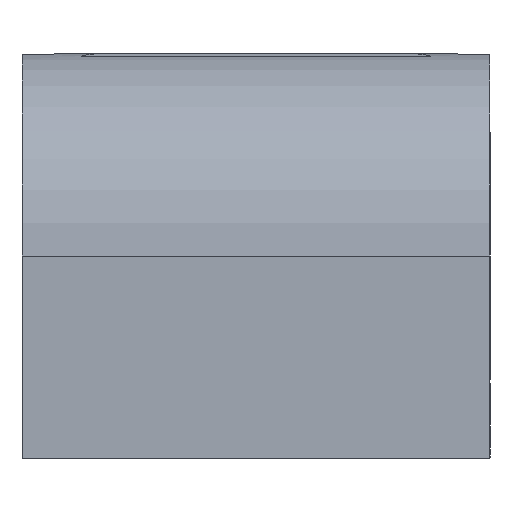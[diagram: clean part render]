
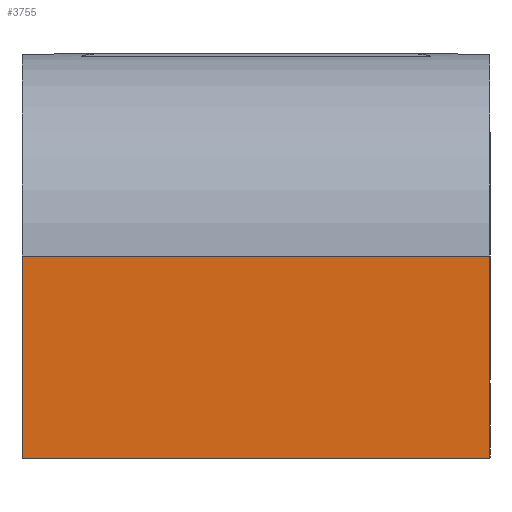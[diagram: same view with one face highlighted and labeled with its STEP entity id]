
A CAD part, left-side view. The second image highlights one B-rep face of the part: STEP entity #3755.
In plain terms, the highlighted planar face has unit normal (-1, 0, 0).
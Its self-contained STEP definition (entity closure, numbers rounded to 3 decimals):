
#43 = PLANE('',#44);
#44 = AXIS2_PLACEMENT_3D('',#45,#46,#47);
#45 = CARTESIAN_POINT('',(-6.4,-7.4,-6.4));
#46 = DIRECTION('',(0.,0.,1.));
#47 = DIRECTION('',(1.,0.,-0.));
#72 = PLANE('',#73);
#73 = AXIS2_PLACEMENT_3D('',#74,#75,#76);
#74 = CARTESIAN_POINT('',(0.,7.4,0.));
#75 = DIRECTION('',(0.,-1.,0.));
#76 = DIRECTION('',(1.,0.,0.));
#165 = VERTEX_POINT('',#166);
#166 = CARTESIAN_POINT('',(-6.4,7.4,-6.4));
#268 = VERTEX_POINT('',#269);
#269 = CARTESIAN_POINT('',(-6.4,7.4,0.));
#284 = CYLINDRICAL_SURFACE('',#285,6.4);
#285 = AXIS2_PLACEMENT_3D('',#286,#287,#288);
#286 = CARTESIAN_POINT('',(0.,7.4,0.));
#287 = DIRECTION('',(0.,-1.,0.));
#288 = DIRECTION('',(1.,0.,0.));
#296 = EDGE_CURVE('',#165,#268,#297,.T.);
#297 = SURFACE_CURVE('',#298,(#302,#309),.PCURVE_S1.);
#298 = LINE('',#299,#300);
#299 = CARTESIAN_POINT('',(-6.4,7.4,-6.4));
#300 = VECTOR('',#301,1.);
#301 = DIRECTION('',(0.,0.,1.));
#302 = PCURVE('',#72,#303);
#303 = DEFINITIONAL_REPRESENTATION('',(#304),#308);
#304 = LINE('',#305,#306);
#305 = CARTESIAN_POINT('',(-6.4,-6.4));
#306 = VECTOR('',#307,1.);
#307 = DIRECTION('',(0.,1.));
#308 = ( GEOMETRIC_REPRESENTATION_CONTEXT(2) 
PARAMETRIC_REPRESENTATION_CONTEXT() REPRESENTATION_CONTEXT('2D SPACE',''
  ) );
#309 = PCURVE('',#310,#315);
#310 = PLANE('',#311);
#311 = AXIS2_PLACEMENT_3D('',#312,#313,#314);
#312 = CARTESIAN_POINT('',(-6.4,-7.4,-6.4));
#313 = DIRECTION('',(1.,0.,-0.));
#314 = DIRECTION('',(0.,0.,1.));
#315 = DEFINITIONAL_REPRESENTATION('',(#316),#320);
#316 = LINE('',#317,#318);
#317 = CARTESIAN_POINT('',(0.,-14.8));
#318 = VECTOR('',#319,1.);
#319 = DIRECTION('',(1.,0.));
#320 = ( GEOMETRIC_REPRESENTATION_CONTEXT(2) 
PARAMETRIC_REPRESENTATION_CONTEXT() REPRESENTATION_CONTEXT('2D SPACE',''
  ) );
#615 = PLANE('',#616);
#616 = AXIS2_PLACEMENT_3D('',#617,#618,#619);
#617 = CARTESIAN_POINT('',(0.,-7.4,0.));
#618 = DIRECTION('',(0.,-1.,0.));
#619 = DIRECTION('',(1.,0.,0.));
#630 = VERTEX_POINT('',#631);
#631 = CARTESIAN_POINT('',(-6.4,-7.4,0.));
#659 = EDGE_CURVE('',#660,#630,#662,.T.);
#660 = VERTEX_POINT('',#661);
#661 = CARTESIAN_POINT('',(-6.4,-7.4,-6.4));
#662 = SURFACE_CURVE('',#663,(#667,#674),.PCURVE_S1.);
#663 = LINE('',#664,#665);
#664 = CARTESIAN_POINT('',(-6.4,-7.4,-6.4));
#665 = VECTOR('',#666,1.);
#666 = DIRECTION('',(0.,0.,1.));
#667 = PCURVE('',#615,#668);
#668 = DEFINITIONAL_REPRESENTATION('',(#669),#673);
#669 = LINE('',#670,#671);
#670 = CARTESIAN_POINT('',(-6.4,-6.4));
#671 = VECTOR('',#672,1.);
#672 = DIRECTION('',(0.,1.));
#673 = ( GEOMETRIC_REPRESENTATION_CONTEXT(2) 
PARAMETRIC_REPRESENTATION_CONTEXT() REPRESENTATION_CONTEXT('2D SPACE',''
  ) );
#674 = PCURVE('',#310,#675);
#675 = DEFINITIONAL_REPRESENTATION('',(#676),#680);
#676 = LINE('',#677,#678);
#677 = CARTESIAN_POINT('',(0.,0.));
#678 = VECTOR('',#679,1.);
#679 = DIRECTION('',(1.,0.));
#680 = ( GEOMETRIC_REPRESENTATION_CONTEXT(2) 
PARAMETRIC_REPRESENTATION_CONTEXT() REPRESENTATION_CONTEXT('2D SPACE',''
  ) );
#3731 = EDGE_CURVE('',#630,#268,#3732,.T.);
#3732 = SURFACE_CURVE('',#3733,(#3737,#3743),.PCURVE_S1.);
#3733 = LINE('',#3734,#3735);
#3734 = CARTESIAN_POINT('',(-6.4,-7.4,0.));
#3735 = VECTOR('',#3736,1.);
#3736 = DIRECTION('',(-0.,1.,0.));
#3737 = PCURVE('',#284,#3738);
#3738 = DEFINITIONAL_REPRESENTATION('',(#3739),#3742);
#3739 = B_SPLINE_CURVE_WITH_KNOTS('',1,(#3740,#3741),.UNSPECIFIED.,.F.,
  .F.,(2,2),(0.,14.8),.PIECEWISE_BEZIER_KNOTS.);
#3740 = CARTESIAN_POINT('',(9.425,14.8));
#3741 = CARTESIAN_POINT('',(9.425,0.));
#3742 = ( GEOMETRIC_REPRESENTATION_CONTEXT(2) 
PARAMETRIC_REPRESENTATION_CONTEXT() REPRESENTATION_CONTEXT('2D SPACE',''
  ) );
#3743 = PCURVE('',#310,#3744);
#3744 = DEFINITIONAL_REPRESENTATION('',(#3745),#3749);
#3745 = LINE('',#3746,#3747);
#3746 = CARTESIAN_POINT('',(6.4,0.));
#3747 = VECTOR('',#3748,1.);
#3748 = DIRECTION('',(0.,-1.));
#3749 = ( GEOMETRIC_REPRESENTATION_CONTEXT(2) 
PARAMETRIC_REPRESENTATION_CONTEXT() REPRESENTATION_CONTEXT('2D SPACE',''
  ) );
#3755 = ADVANCED_FACE('',(#3756),#310,.F.);
#3756 = FACE_BOUND('',#3757,.F.);
#3757 = EDGE_LOOP('',(#3758,#3759,#3780,#3781));
#3758 = ORIENTED_EDGE('',*,*,#659,.F.);
#3759 = ORIENTED_EDGE('',*,*,#3760,.T.);
#3760 = EDGE_CURVE('',#660,#165,#3761,.T.);
#3761 = SURFACE_CURVE('',#3762,(#3766,#3773),.PCURVE_S1.);
#3762 = LINE('',#3763,#3764);
#3763 = CARTESIAN_POINT('',(-6.4,-7.4,-6.4));
#3764 = VECTOR('',#3765,1.);
#3765 = DIRECTION('',(-0.,1.,0.));
#3766 = PCURVE('',#310,#3767);
#3767 = DEFINITIONAL_REPRESENTATION('',(#3768),#3772);
#3768 = LINE('',#3769,#3770);
#3769 = CARTESIAN_POINT('',(0.,0.));
#3770 = VECTOR('',#3771,1.);
#3771 = DIRECTION('',(0.,-1.));
#3772 = ( GEOMETRIC_REPRESENTATION_CONTEXT(2) 
PARAMETRIC_REPRESENTATION_CONTEXT() REPRESENTATION_CONTEXT('2D SPACE',''
  ) );
#3773 = PCURVE('',#43,#3774);
#3774 = DEFINITIONAL_REPRESENTATION('',(#3775),#3779);
#3775 = LINE('',#3776,#3777);
#3776 = CARTESIAN_POINT('',(0.,0.));
#3777 = VECTOR('',#3778,1.);
#3778 = DIRECTION('',(0.,1.));
#3779 = ( GEOMETRIC_REPRESENTATION_CONTEXT(2) 
PARAMETRIC_REPRESENTATION_CONTEXT() REPRESENTATION_CONTEXT('2D SPACE',''
  ) );
#3780 = ORIENTED_EDGE('',*,*,#296,.T.);
#3781 = ORIENTED_EDGE('',*,*,#3731,.F.);
